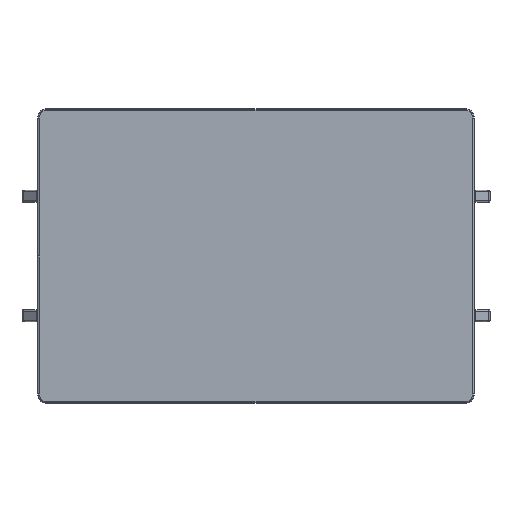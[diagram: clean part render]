
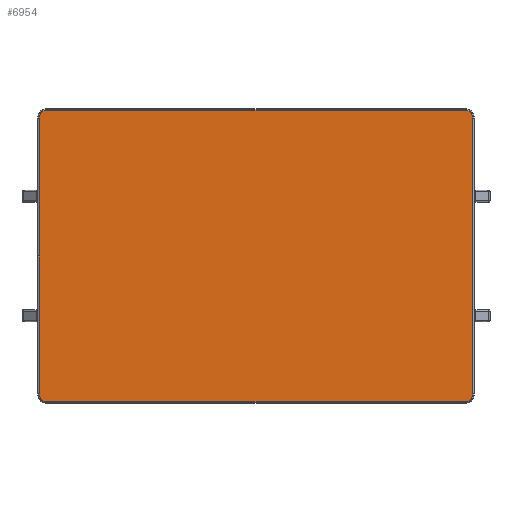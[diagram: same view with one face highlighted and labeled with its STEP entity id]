
A CAD part, front view. The second image highlights one B-rep face of the part: STEP entity #6954.
In plain terms, the highlighted planar face has unit normal (0, -1, 0).
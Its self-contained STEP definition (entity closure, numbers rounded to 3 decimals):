
#135 = DIRECTION ( 'NONE',  ( 0., 0., 1. ) ) ;
#242 = DIRECTION ( 'NONE',  ( 1., 0., 0. ) ) ;
#1119 = VERTEX_POINT ( 'NONE', #2025 ) ;
#1164 = VERTEX_POINT ( 'NONE', #1833 ) ;
#1285 = FACE_OUTER_BOUND ( 'NONE', #1809, .T. ) ;
#1307 = VECTOR ( 'NONE', #135, 1000. ) ;
#1490 = CIRCLE ( 'NONE', #5556, 3.334 ) ;
#1617 = EDGE_CURVE ( 'NONE', #5839, #2064, #4339, .T. ) ;
#1736 = VERTEX_POINT ( 'NONE', #8990 ) ;
#1809 = EDGE_LOOP ( 'NONE', ( #10350, #7349, #3925, #13063, #4882, #10415, #10230, #8381, #11285 ) ) ;
#1824 = DIRECTION ( 'NONE',  ( 0., -1., 0. ) ) ;
#1833 = CARTESIAN_POINT ( 'NONE',  ( 88., 9., 61.334 ) ) ;
#2025 = CARTESIAN_POINT ( 'NONE',  ( 91.334, 9., 58. ) ) ;
#2064 = VERTEX_POINT ( 'NONE', #7771 ) ;
#2178 = VERTEX_POINT ( 'NONE', #8101 ) ;
#2225 = CARTESIAN_POINT ( 'NONE',  ( -91.334, 9., 0. ) ) ;
#2357 = DIRECTION ( 'NONE',  ( 0., 0., 1. ) ) ;
#2396 = DIRECTION ( 'NONE',  ( 0., 0., -1. ) ) ;
#2617 = EDGE_CURVE ( 'NONE', #12918, #1119, #6288, .T. ) ;
#2870 = EDGE_CURVE ( 'NONE', #2064, #3182, #3999, .T. ) ;
#3128 = CARTESIAN_POINT ( 'NONE',  ( -91.334, 9., 58. ) ) ;
#3182 = VERTEX_POINT ( 'NONE', #9947 ) ;
#3219 = PLANE ( 'NONE',  #7487 ) ;
#3686 = DIRECTION ( 'NONE',  ( 0., 0., 1. ) ) ;
#3757 = DIRECTION ( 'NONE',  ( -1., 0., 0. ) ) ;
#3914 = CARTESIAN_POINT ( 'NONE',  ( -88., 9., -61.334 ) ) ;
#3925 = ORIENTED_EDGE ( 'NONE', *, *, #5306, .T. ) ;
#3999 = LINE ( 'NONE', #9077, #9194 ) ;
#4196 = CARTESIAN_POINT ( 'NONE',  ( -88., 9., -58. ) ) ;
#4339 = LINE ( 'NONE', #3128, #9786 ) ;
#4772 = CARTESIAN_POINT ( 'NONE',  ( 88., 9., 61.334 ) ) ;
#4882 = ORIENTED_EDGE ( 'NONE', *, *, #2617, .T. ) ;
#5204 = DIRECTION ( 'NONE',  ( 0., -1., 0. ) ) ;
#5306 = EDGE_CURVE ( 'NONE', #1736, #2178, #13079, .T. ) ;
#5405 = DIRECTION ( 'NONE',  ( 0., -1., 0. ) ) ;
#5556 = AXIS2_PLACEMENT_3D ( 'NONE', #4196, #5204, #11216 ) ;
#5658 = CIRCLE ( 'NONE', #13122, 3.334 ) ;
#5839 = VERTEX_POINT ( 'NONE', #10310 ) ;
#5966 = EDGE_CURVE ( 'NONE', #6777, #5839, #12187, .T. ) ;
#6014 = AXIS2_PLACEMENT_3D ( 'NONE', #9840, #7482, #3686 ) ;
#6092 = EDGE_CURVE ( 'NONE', #1164, #6777, #6102, .T. ) ;
#6102 = LINE ( 'NONE', #4772, #7271 ) ;
#6288 = LINE ( 'NONE', #9275, #1307 ) ;
#6510 = VECTOR ( 'NONE', #7996, 1000. ) ;
#6777 = VERTEX_POINT ( 'NONE', #10477 ) ;
#6821 = DIRECTION ( 'NONE',  ( 0., 0., -1. ) ) ;
#6954 = ADVANCED_FACE ( 'NONE', ( #1285 ), #3219, .F. ) ;
#7229 = DIRECTION ( 'NONE',  ( 0., 1., 0. ) ) ;
#7271 = VECTOR ( 'NONE', #3757, 1000. ) ;
#7349 = ORIENTED_EDGE ( 'NONE', *, *, #12490, .T. ) ;
#7482 = DIRECTION ( 'NONE',  ( 0., -1., 0. ) ) ;
#7487 = AXIS2_PLACEMENT_3D ( 'NONE', #2225, #7229, #2357 ) ;
#7771 = CARTESIAN_POINT ( 'NONE',  ( -91.334, 9., 0. ) ) ;
#7996 = DIRECTION ( 'NONE',  ( 1., 0., 0. ) ) ;
#8101 = CARTESIAN_POINT ( 'NONE',  ( 88., 9., -61.334 ) ) ;
#8381 = ORIENTED_EDGE ( 'NONE', *, *, #5966, .T. ) ;
#8744 = CIRCLE ( 'NONE', #11740, 3.334 ) ;
#8990 = CARTESIAN_POINT ( 'NONE',  ( -88., 9., -61.334 ) ) ;
#9077 = CARTESIAN_POINT ( 'NONE',  ( -91.334, 9., 0. ) ) ;
#9133 = DIRECTION ( 'NONE',  ( 0., 0., -1. ) ) ;
#9194 = VECTOR ( 'NONE', #9133, 1000. ) ;
#9275 = CARTESIAN_POINT ( 'NONE',  ( 91.334, 9., -58. ) ) ;
#9388 = CARTESIAN_POINT ( 'NONE',  ( 88., 9., 58. ) ) ;
#9786 = VECTOR ( 'NONE', #2396, 1000. ) ;
#9840 = CARTESIAN_POINT ( 'NONE',  ( -88., 9., 58. ) ) ;
#9947 = CARTESIAN_POINT ( 'NONE',  ( -91.334, 9., -58. ) ) ;
#10230 = ORIENTED_EDGE ( 'NONE', *, *, #6092, .T. ) ;
#10310 = CARTESIAN_POINT ( 'NONE',  ( -91.334, 9., 58. ) ) ;
#10350 = ORIENTED_EDGE ( 'NONE', *, *, #2870, .T. ) ;
#10415 = ORIENTED_EDGE ( 'NONE', *, *, #12473, .T. ) ;
#10477 = CARTESIAN_POINT ( 'NONE',  ( -88., 9., 61.334 ) ) ;
#10794 = EDGE_CURVE ( 'NONE', #2178, #12918, #5658, .T. ) ;
#11216 = DIRECTION ( 'NONE',  ( -1., 0., 0. ) ) ;
#11285 = ORIENTED_EDGE ( 'NONE', *, *, #1617, .T. ) ;
#11392 = CARTESIAN_POINT ( 'NONE',  ( 91.334, 9., -58. ) ) ;
#11740 = AXIS2_PLACEMENT_3D ( 'NONE', #9388, #5405, #242 ) ;
#12050 = CARTESIAN_POINT ( 'NONE',  ( 88., 9., -58. ) ) ;
#12187 = CIRCLE ( 'NONE', #6014, 3.334 ) ;
#12473 = EDGE_CURVE ( 'NONE', #1119, #1164, #8744, .T. ) ;
#12490 = EDGE_CURVE ( 'NONE', #3182, #1736, #1490, .T. ) ;
#12918 = VERTEX_POINT ( 'NONE', #11392 ) ;
#13063 = ORIENTED_EDGE ( 'NONE', *, *, #10794, .T. ) ;
#13079 = LINE ( 'NONE', #3914, #6510 ) ;
#13122 = AXIS2_PLACEMENT_3D ( 'NONE', #12050, #1824, #6821 ) ;
